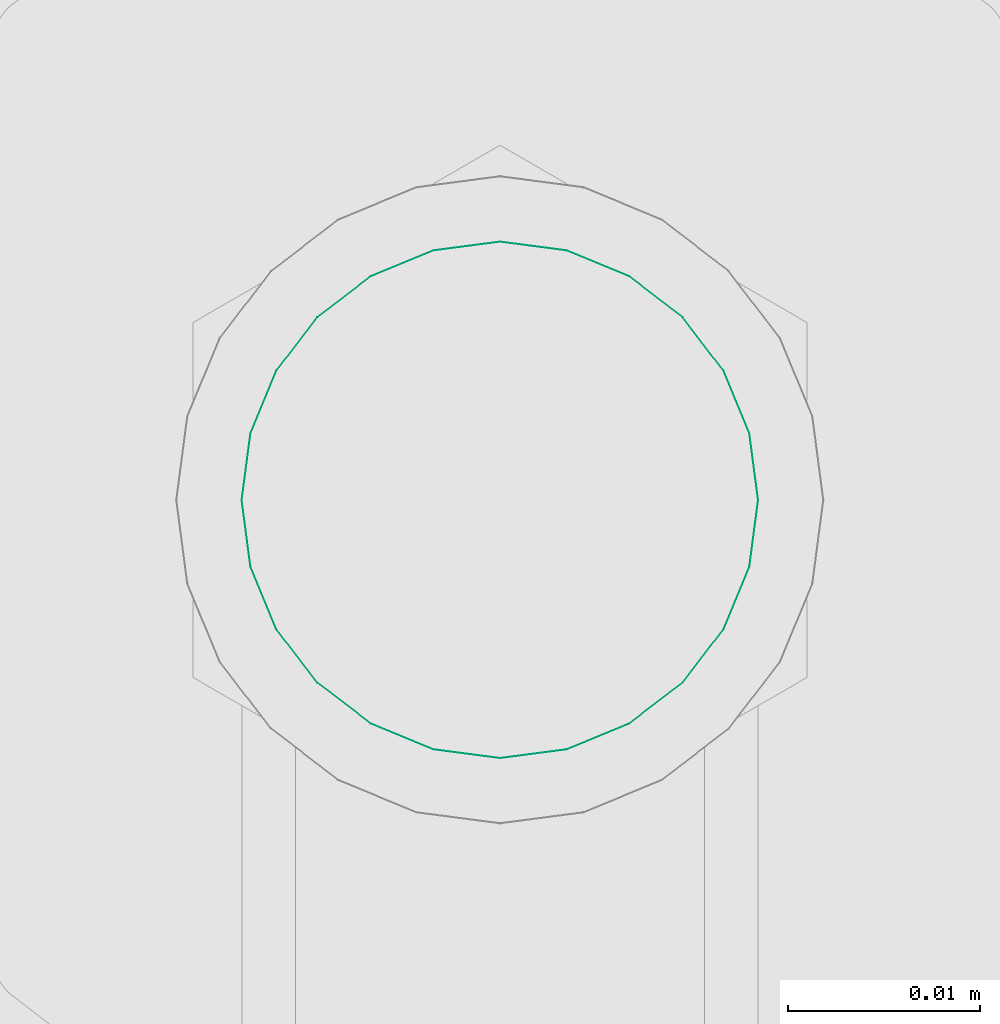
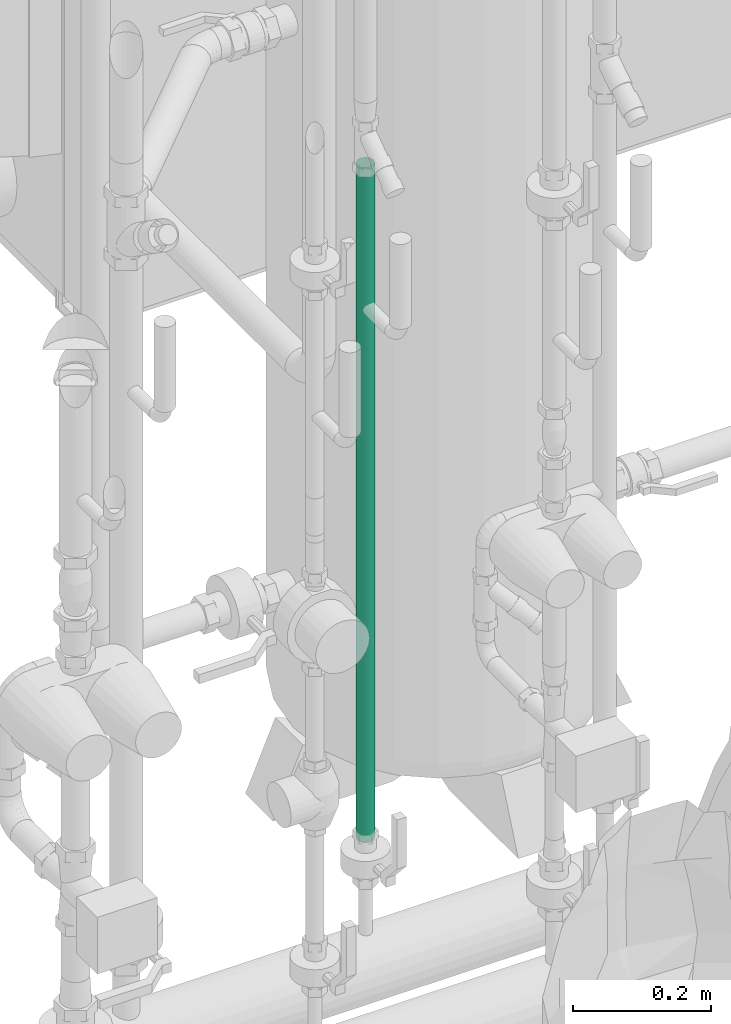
# One storey, part 206 of 374: 1 flow segment.
"""IFC2X3 building model written with IfcOpenShell, lengths in metres."""

from ifc_helpers import new_model, si_unit, direction, origin, place, context, subcontext, project, spatial, open_shell, surface_model, source, transform, mapped, element, save


model = new_model("IFC2X3")

# Units and contexts
model_context = context("Model", 3, precision=1e-05, world=origin(), true_north=direction((-0.4480736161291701, 0.8939966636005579)))
body_context = subcontext(model_context, "Body", "Model", "MODEL_VIEW")
ifc_project = project(units=[si_unit("LENGTHUNIT", "METRE"), si_unit("AREAUNIT", "SQUARE_METRE"), si_unit("VOLUMEUNIT", "CUBIC_METRE"), si_unit("PLANEANGLEUNIT", "RADIAN"), si_unit("THERMODYNAMICTEMPERATUREUNIT", "KELVIN"), si_unit("MASSUNIT", "GRAM", prefix="KILO"), si_unit("TIMEUNIT", "SECOND")], contexts=[model_context])

# Site, building, storey
site_placement = place(None, origin())
site = spatial("IfcSite", under=ifc_project, at=site_placement, Name="Site 1", CompositionType="ELEMENT")
building_placement = place(site_placement, origin())
building = spatial("IfcBuilding", under=site, at=building_placement, Name="Undefined", CompositionType="ELEMENT")
storey_placement = place(building_placement, origin())
storey = spatial("IfcBuildingStorey", under=building, at=storey_placement, Name="Rez de chauss\x8ee", CompositionType="ELEMENT", Elevation=0.0)

# Flow segment
shared_shape = source(origin(), body_context, "Body", "SurfaceModel", [
    surface_model("IfcFaceBasedSurfaceModel", [(0.0, 0.0035111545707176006, 0.0), (0.0, 0.0, 0.0), (1.1926233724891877, -1.776356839e-15, -7.105427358e-15), (1.1926233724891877, 0.0035111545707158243, -7.105427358e-15), (0.0, -0.003391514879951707, -0.0009087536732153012), (1.1926233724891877, -0.0033915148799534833, -0.0009087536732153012), (0.0, -0.006432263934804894, -0.0026643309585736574), (1.1926233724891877, -0.006432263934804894, -0.0026643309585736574), (0.0, -0.00891502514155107, -0.005147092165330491), (1.1926233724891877, -0.008915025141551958, -0.005147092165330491), (0.0, -0.010670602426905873, -0.008187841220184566), (1.1926233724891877, -0.010670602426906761, -0.008187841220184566), (0.0, -0.011579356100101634, -0.01157935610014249), (1.1926233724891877, -0.011579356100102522, -0.01157935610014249), (0.0, -0.011579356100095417, -0.015090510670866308), (1.1926233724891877, -0.011579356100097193, -0.015090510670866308), (0.0, -0.010670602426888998, -0.018482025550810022), (1.1926233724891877, -0.010670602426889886, -0.018482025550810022), (0.0, -0.008915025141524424, -0.021522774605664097), (1.1926233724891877, -0.008915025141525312, -0.021522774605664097), (0.0, -0.006432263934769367, -0.02400553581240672), (1.1926233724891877, -0.006432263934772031, -0.02400553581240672), (0.0, -0.0033915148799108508, -0.025761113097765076), (1.1926233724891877, -0.003391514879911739, -0.025761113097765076), (0.0, 4.2632564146e-14, -0.026669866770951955), (1.1926233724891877, 4.0856207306e-14, -0.02666986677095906), (0.0, 0.0035111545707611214, -0.026669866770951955), (1.1926233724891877, 0.003511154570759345, -0.026669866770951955), (0.0, 0.006902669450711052, -0.02576111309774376), (1.1926233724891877, 0.006902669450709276, -0.02576111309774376), (0.0, 0.00994341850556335, -0.024005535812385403), (1.1926233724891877, 0.009943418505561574, -0.024005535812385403), (0.0, 0.012426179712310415, -0.02152277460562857), (1.1926233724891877, 0.012426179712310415, -0.02152277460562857), (0.0, 0.014181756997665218, -0.018482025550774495), (1.1926233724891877, 0.014181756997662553, -0.018482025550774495), (0.0, 0.015090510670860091, -0.01509051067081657), (1.1926233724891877, 0.015090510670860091, -0.01509051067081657), (0.0, 0.015090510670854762, -0.011579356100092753), (1.1926233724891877, 0.015090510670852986, -0.011579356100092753), (0.0, 0.014181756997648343, -0.00818784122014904), (1.1926233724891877, 0.014181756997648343, -0.00818784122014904), (0.0, 0.012426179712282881, -0.005147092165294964), (1.1926233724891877, 0.012426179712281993, -0.005147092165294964), (0.0, 0.009943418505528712, -0.002664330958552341), (1.1926233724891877, 0.009943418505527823, -0.002664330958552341), (0.0, 0.006902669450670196, -0.0009087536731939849), (1.1926233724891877, 0.006902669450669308, -0.0009087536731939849)], [open_shell([[[0, 1, 2, 3]], [[1, 4, 5, 2]], [[4, 6, 7, 5]], [[6, 8, 9, 7]], [[8, 10, 11, 9]], [[10, 12, 13, 11]], [[12, 14, 15, 13]], [[14, 16, 17, 15]], [[16, 18, 19, 17]], [[18, 20, 21, 19]], [[20, 22, 23, 21]], [[22, 24, 25, 23]], [[24, 26, 27, 25]], [[26, 28, 29, 27]], [[28, 30, 31, 29]], [[30, 32, 33, 31]], [[32, 34, 35, 33]], [[34, 36, 37, 35]], [[36, 38, 39, 37]], [[38, 40, 41, 39]], [[40, 42, 43, 41]], [[42, 44, 45, 43]], [[44, 46, 47, 45]], [[46, 0, 3, 47]]])]),
])
flow_segment_placement = place(storey_placement, origin())
element("IfcFlowSegment", 1, at=flow_segment_placement, inside=storey, Name="Tube acier d'après DIN 2448", ObjectType="Tube acier d'après DIN 2448", context=body_context, shape_type="MappedRepresentation", body=[
    mapped(shared_shape, transform((53.070553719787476, 10.92151816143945, 0.5231499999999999), x_axis=(0.0, 0.0, 1.0), y_axis=(0.13052619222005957, -0.9914448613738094, 0.0), z_axis=(0.9914448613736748, 0.13052619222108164, 0.0))),
])

save(model, "model.ifc")
